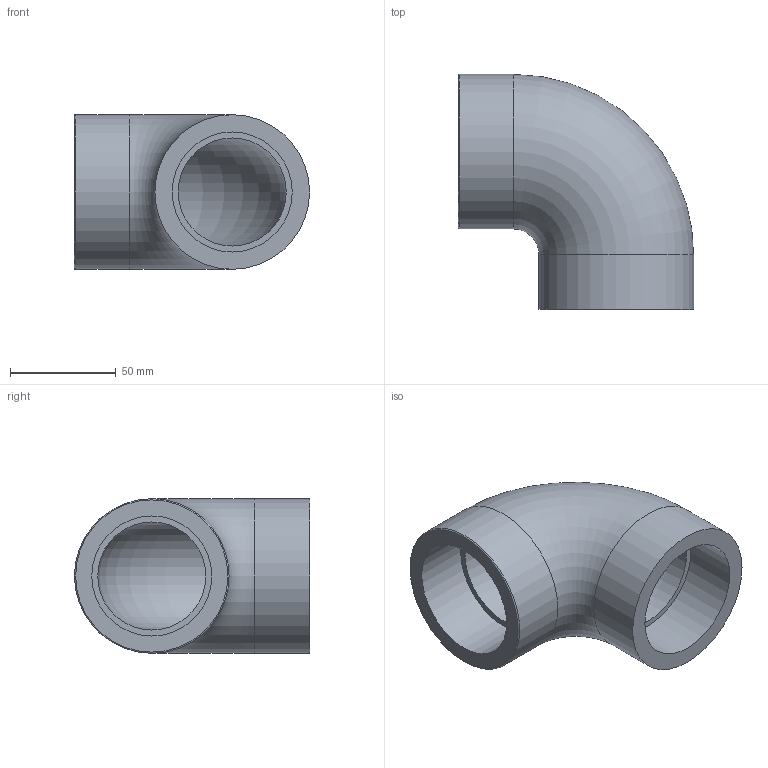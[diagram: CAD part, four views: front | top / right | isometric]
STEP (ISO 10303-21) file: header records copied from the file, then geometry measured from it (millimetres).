
FILE_DESCRIPTION(/* description */ ('PLASSON THREADED 90° ELBOW PVC 2"'),/* implementation_level */ '2;1');
FILE_NAME(/* name */ 'C:\Dropbox\KIMPROJECTS-Inventor\99-16-3568-Processing\PVC Catalog 2017\050501\050501020.ipt.stp',/* time_stamp */ '2017-12-07T15:55:53+02:00',/* author */ ('KIM'),/* organization */ (''),/* preprocessor_version */ 'ST-DEVELOPER v15.6',/* originating_system */ 'Autodesk Inventor 2015',/* authorisation */ '');
FILE_SCHEMA (('AUTOMOTIVE_DESIGN { 1 0 10303 214 3 1 1 }'));
Length unit declared in the file: millimetre
Products named in the file (1): 050501020
Bounding box: 111 x 111 x 73 mm (x, y, z)
Volume: 249816.7 mm3; surface area: 55087.3 mm2
Topology: 1 solids, 1 shells, 11 faces, 21 edges, 14 vertices
Faces by surface type: cylinder 4, plane 4, torus 3
Full cylindrical faces by diameter (mm): 56.656 x2, 73 x2
Entity records: 252 total; most frequent: DIRECTION 46, CARTESIAN_POINT 34, AXIS2_PLACEMENT_3D 23, EDGE_LOOP 22, ORIENTED_EDGE 22, FACE_BOUND 11, FACE_OUTER_BOUND 11, CIRCLE 11
